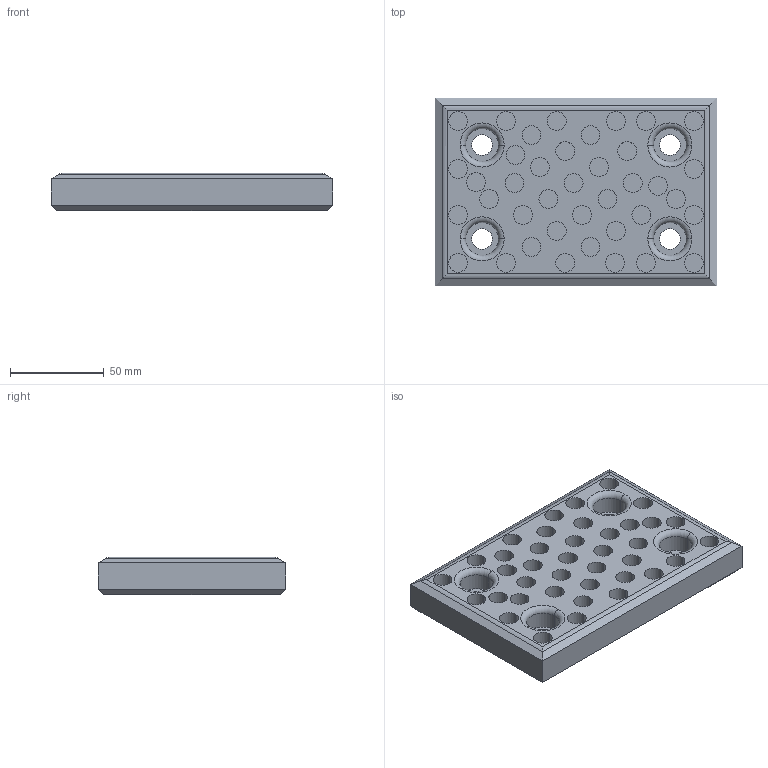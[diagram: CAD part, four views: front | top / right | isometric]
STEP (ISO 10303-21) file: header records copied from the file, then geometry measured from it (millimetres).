
FILE_DESCRIPTION (( 'STEP AP214' ), '1' );
FILE_NAME ('SW224-02-100x150.STEP', '2020-10-19T07:58:29', ( 'August' ), ( '' ), 'SwSTEP 2.0', 'SolidWorks 2018', '' );
FILE_SCHEMA (( 'AUTOMOTIVE_DESIGN' ));
Length unit declared in the file: millimetre
Products named in the file (1): SW224-02-100x150
Bounding box: 150 x 100 x 20 mm (x, y, z)
Volume: 250528 mm3; surface area: 52085.7 mm2
Topology: 1 solids, 1 shells, 163 faces, 334 edges, 216 vertices
Faces by surface type: cylinder 98, plane 57, torus 8
Entity records: 4987 total; most frequent: DIRECTION 854, CARTESIAN_POINT 797, ORIENTED_EDGE 668, AXIS2_PLACEMENT_3D 368, EDGE_CURVE 334, VERTEX_POINT 216, EDGE_LOOP 214, CIRCLE 204
